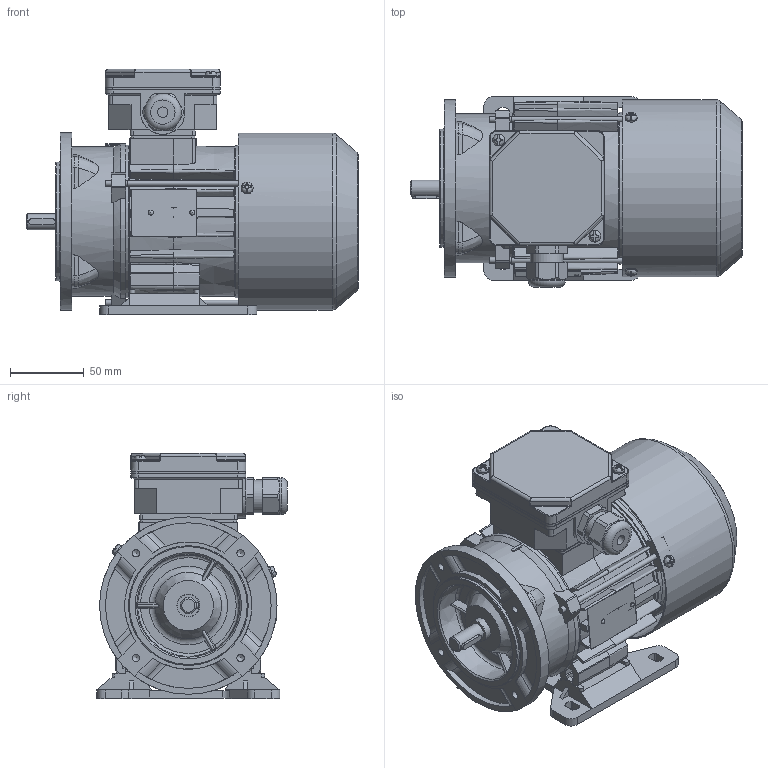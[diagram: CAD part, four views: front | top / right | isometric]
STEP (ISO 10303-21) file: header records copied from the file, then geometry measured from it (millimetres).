
FILE_DESCRIPTION( ( 'Unknown' ), '1' );
FILE_NAME( 'G:/Poczta Tk-1/STP/w.m.63/Sh63/SLh63-C1.stp', 'Unknown', ( 'K. Szlosek' ), ( 'BESEL S.A.' ), 'PSStep 17.0.49', 'Unknown', ' ' );
FILE_SCHEMA( ( 'AUTOMOTIVE_DESIGN { 1 0 10303 214 1 1 1 1 }' ) );
Length unit declared in the file: millimetre
Products named in the file (30): Assem1; K3-9973 Kadłub ze stojanem wykończonym Sh63-C; K3-5320 Tarcza łożyskowa P Sg63; K4-2320 Uszczelka nr 1 Sh71,80; Wpust A4x4x18; K3-5321 osłona przewietrznika Sg63; K4-2820 Uszczelka nr 2 Sh71,80; K2-0860 Pokrywka skrzynki zaciskowej; Wkręt samogwintujący M4x16; K2-1769 Przewietrznik Sg63; Wkręt samogwintujący M4x8; Nitokołek A 2x6; K3-9974 wał Sh63-C standard; K2-0859 Podstawa skrzynki 6-cio zaciskowej; Łożysko 6202; Dławnica M20x1,5; Śruba ściągająca E_M4x100; Tabliczka znamionowa 32x44; K1-1111 Tarcza kołnierzowa w.m. 63 IMB14_1; K1-1107 Łapa Sg63-.. w. robocza
Assembly tree (46 placements, depth 2):
  Assem1
    K3-9973 Kadłub ze stojanem wykończonym Sh63-C
    K3-5320 Tarcza łożyskowa P Sg63
    K4-2320 Uszczelka nr 1 Sh71,80
    Wpust A4x4x18
    K3-5321 osłona przewietrznika Sg63
    K4-2820 Uszczelka nr 2 Sh71,80
    K2-0860 Pokrywka skrzynki zaciskowej
    Wkręt samogwintujący M4x16  x2
    K2-1769 Przewietrznik Sg63
    Wkręt samogwintujący M4x8  x3
    Nitokołek A 2x6  x2
    K3-9974 wał Sh63-C standard
    K2-0859 Podstawa skrzynki 6-cio zaciskowej
    Łożysko 6202  x2
    Łożysko 6202  x2
    Łożysko 6202  x2
    Łożysko 6202  x2
    Łożysko 6202  x2
    Łożysko 6202  x2
    Łożysko 6202  x2
    Łożysko 6202  x2
    Łożysko 6202  x2
    Łożysko 6202  x2
    Łożysko 6202  x2
    Dławnica M20x1,5
    Śruba ściągająca E_M4x100  x3
    Tabliczka znamionowa 32x44
    K1-1111 Tarcza kołnierzowa w.m. 63 IMB14_1
    K1-1107 Łapa Sg63-.. w. robocza
Bounding box: 224.5 x 129 x 166 mm (x, y, z)
Volume: 601831.2 mm3; surface area: 385707.8 mm2
Topology: 46 solids, 64 shells, 2041 faces, 5619 edges, 3644 vertices
Faces by surface type: plane 1024, cylinder 602, cone 130, torus 126, bspline 120, sphere 39
Full cylindrical faces by diameter (mm): 2 x2, 2.4 x2, 3.3 x3, 3.7 x10, 4 x8, 4.5 x4, 4.8 x4, 5 x8, 5.8 x4, 7 x4, 8 x6, 11 x1, 12.9 x1, 13.1 x1, 13.5 x1, 15 x4, 15.4 x2, 18.376 x1, 18.38 x1, 19 x2, 19.5 x1, 20 x2, 20.1 x1, 21.52 x4, 22.3 x1, 25 x1, 28 x2, 28.48 x4, 31 x2, 32 x1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
Entity records: 88840 total; most frequent: CARTESIAN_POINT 27093, ORIENTED_EDGE 9778, DIRECTION 9354, EDGE_CURVE 4889, AXIS2_PLACEMENT_3D 3442, VERTEX_POINT 3316, LINE 2470, VECTOR 2470
